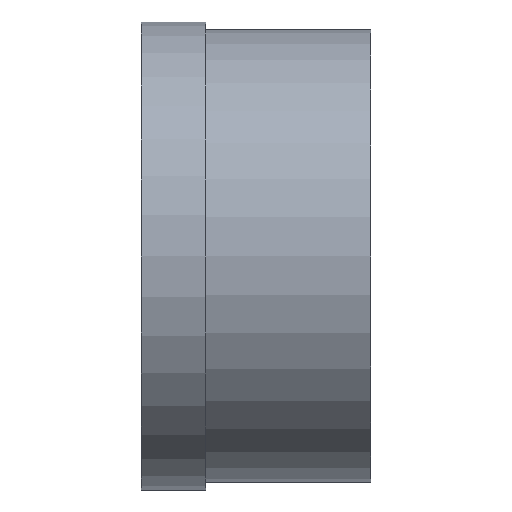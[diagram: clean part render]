
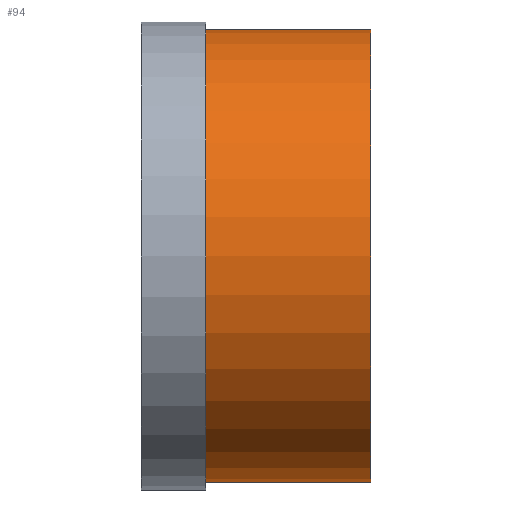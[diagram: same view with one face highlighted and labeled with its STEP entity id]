
A CAD part, front view. The second image highlights one B-rep face of the part: STEP entity #94.
In plain terms, the highlighted cylindrical face has radius 157.5 mm (diameter 315 mm), a full revolution.
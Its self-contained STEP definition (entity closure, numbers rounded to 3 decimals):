
#13=CYLINDRICAL_SURFACE($,#109,157.5);
#23=FACE_BOUND($,#41,.T.);
#30=FACE_OUTER_BOUND($,#40,.T.);
#40=EDGE_LOOP($,(#75));
#41=EDGE_LOOP($,(#76));
#50=CIRCLE($,#108,157.5);
#51=CIRCLE($,#110,157.5);
#57=VERTEX_POINT($,#157);
#58=VERTEX_POINT($,#160);
#64=EDGE_CURVE($,#57,#57,#50,.T.);
#65=EDGE_CURVE($,#58,#58,#51,.T.);
#75=ORIENTED_EDGE($,*,*,#65,.F.);
#76=ORIENTED_EDGE($,*,*,#64,.T.);
#94=ADVANCED_FACE($,(#30,#23),#13,.T.);
#108=AXIS2_PLACEMENT_3D($,#158,#132,#133);
#109=AXIS2_PLACEMENT_3D($,#159,#134,#135);
#110=AXIS2_PLACEMENT_3D($,#161,#136,#137);
#132=DIRECTION('center_axis',(1.,0.,0.));
#133=DIRECTION('ref_axis',(0.,1.,0.));
#134=DIRECTION('center_axis',(1.,0.,0.));
#135=DIRECTION('ref_axis',(0.,1.,0.));
#136=DIRECTION('center_axis',(1.,0.,0.));
#137=DIRECTION('ref_axis',(0.,1.,0.));
#157=CARTESIAN_POINT('',(45.,157.5,0.));
#158=CARTESIAN_POINT('Origin',(45.,0.,0.));
#159=CARTESIAN_POINT('Origin',(102.5,0.,0.));
#160=CARTESIAN_POINT('',(160.,157.5,0.));
#161=CARTESIAN_POINT('Origin',(160.,0.,0.));
